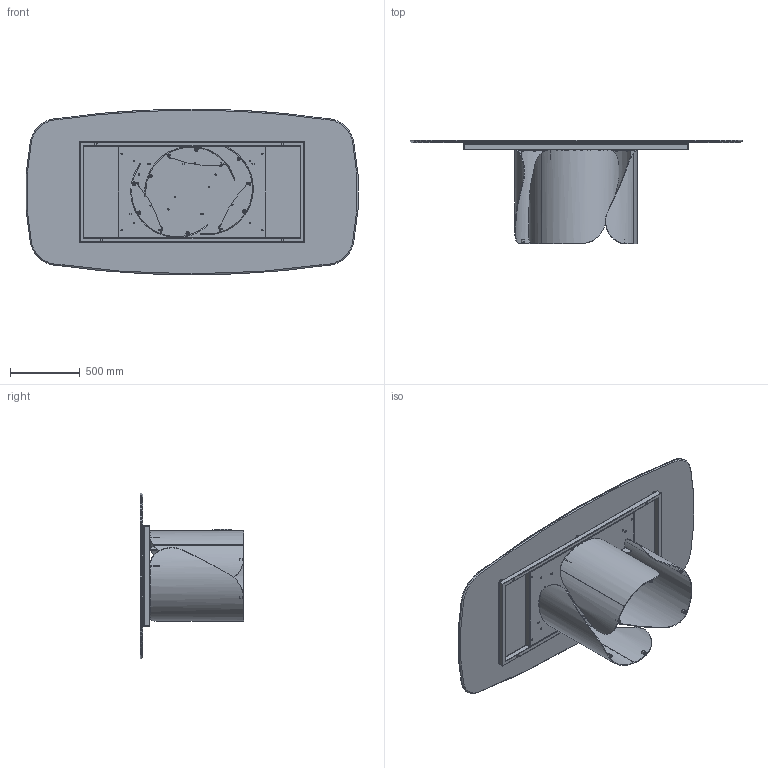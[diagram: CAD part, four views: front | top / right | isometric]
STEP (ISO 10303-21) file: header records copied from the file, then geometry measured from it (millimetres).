
FILE_DESCRIPTION (( 'STEP AP203' ), '1' );
FILE_NAME ('ON42C.STEP', '2024-08-06T13:54:38', ( '' ), ( '' ), 'SwSTEP 2.0', 'SolidWorks 2022', '' );
FILE_SCHEMA (( 'CONFIG_CONTROL_DESIGN' ));
Length unit declared in the file: millimetre
Products named in the file (15): ON42C; rondella M8_8X24; OND000000_02-00-CILINDRO DI FISSAGGIO Ø25X17 M8; OND000000_01-00-PIASTRA SUPERIORE BASE ONDA; COLLO TELAIO UNIVERSALE TTAV0601 CON FERRAMENTA_FERRAMENTA MTG TOP CRISTALLO VERNICIATO-CERAMICA; M8xXXmm_M8x20mm; OND000000-03-ONDA BASE GREZZA; OND000000_03-00-LAMIERA CURVATA PRINCIPALE_OND00000X-00-ONDA BASE GREZZA PROTOTIPO; K4XCMXX-00-Piani Sagomati in ceramica_2390 x 1190; TTAV0601_01-00-STRUTTURA X TAVOLI PLAI ONDA NOA 240; TTAV0601-00-TELAIO X TAVOLI PLAI ONDA NOA 240cm_TTAV06; PIEDINO PER ONDA; COLLO BASE ONDA SINGOLA CON FERRAMENTA; 434070-00-PIEDINO TPV GOMMA NERO D. 30x8max18_filo estetico; TTAV0601_02-00-VASSOIO TAVOLI PLAI ONDA NOA 240
Assembly tree (45 placements, depth 4):
  ON42C
    COLLO TELAIO UNIVERSALE TTAV0601 CON FERRAMENTA_FERRAMENTA MTG TOP CRISTALLO VERNICIATO-CERAMICA
      TTAV0601-00-TELAIO X TAVOLI PLAI ONDA NOA 240cm_TTAV06
        TTAV0601_02-00-VASSOIO TAVOLI PLAI ONDA NOA 240
        TTAV0601_01-00-STRUTTURA X TAVOLI PLAI ONDA NOA 240
      434070-00-PIEDINO TPV GOMMA NERO D. 30x8max18_filo estetico  x6
    COLLO BASE ONDA SINGOLA CON FERRAMENTA  x3
      OND000000-03-ONDA BASE GREZZA
        OND000000_03-00-LAMIERA CURVATA PRINCIPALE_OND00000X-00-ONDA BASE GREZZA PROTOTIPO
        OND000000_01-00-PIASTRA SUPERIORE BASE ONDA
        OND000000_02-00-CILINDRO DI FISSAGGIO Ø25X17 M8  x2
      PIEDINO PER ONDA
    rondella M8_8X24  x12
    M8xXXmm_M8x20mm  x12
    K4XCMXX-00-Piani Sagomati in ceramica_2390 x 1190
Bounding box: 2382.15 x 742 x 1190 mm (x, y, z)
Volume: 54672405.1 mm3; surface area: 16856498.6 mm2
Topology: 64 solids, 64 shells, 1572 faces, 3558 edges, 2144 vertices
Faces by surface type: plane 580, cylinder 511, cone 221, torus 192, bspline 60, sphere 8
Entity records: 21944 total; most frequent: CARTESIAN_POINT 4924, DIRECTION 3197, ORIENTED_EDGE 2916, EDGE_CURVE 1458, AXIS2_PLACEMENT_3D 1207, VERTEX_POINT 892, VECTOR 783, LINE 783
